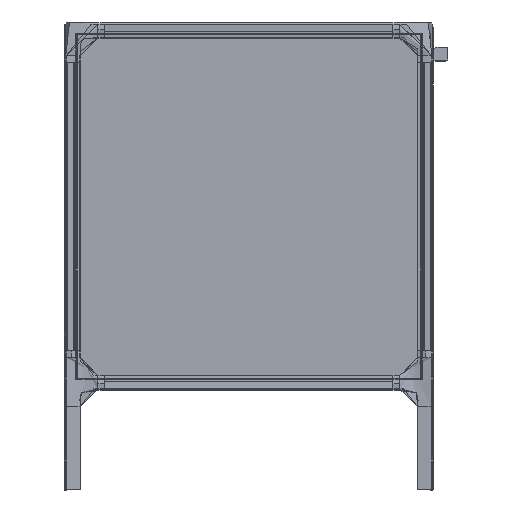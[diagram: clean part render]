
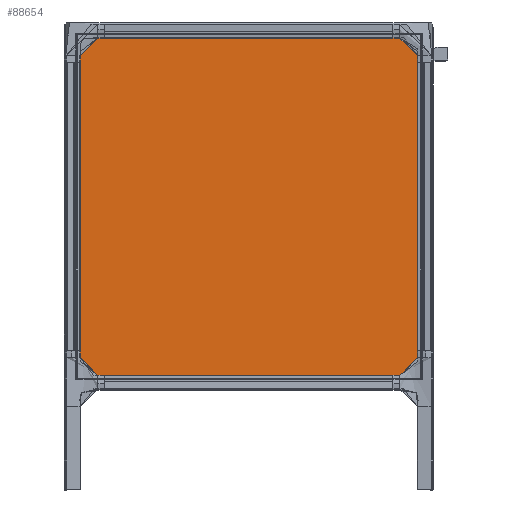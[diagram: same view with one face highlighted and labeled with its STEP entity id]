
A CAD part, left-side view. The second image highlights one B-rep face of the part: STEP entity #88654.
In plain terms, the highlighted planar face has unit normal (-1, 0, 0).
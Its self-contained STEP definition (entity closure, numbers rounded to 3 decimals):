
#88654=ADVANCED_FACE('',(#92294),#135886,.T.);
#92294=FACE_OUTER_BOUND('',#96008,.T.);
#96008=EDGE_LOOP('',(#110084,#110085,#110086,#110087));
#110084=ORIENTED_EDGE('',*,*,#121453,.F.);
#110085=ORIENTED_EDGE('',*,*,#121451,.F.);
#110086=ORIENTED_EDGE('',*,*,#121452,.F.);
#110087=ORIENTED_EDGE('',*,*,#121450,.F.);
#121450=EDGE_CURVE('',#133082,#133083,#127676,.T.);
#121451=EDGE_CURVE('',#133084,#133085,#127677,.T.);
#121452=EDGE_CURVE('',#133083,#133084,#127678,.T.);
#121453=EDGE_CURVE('',#133085,#133082,#127679,.T.);
#127676=B_SPLINE_CURVE_WITH_KNOTS('',1,(#297131,#297132),.UNSPECIFIED.,
 .F.,.F.,(2,2),(1.,494.),.UNSPECIFIED.);
#127677=B_SPLINE_CURVE_WITH_KNOTS('',1,(#297133,#297134),.UNSPECIFIED.,
 .F.,.F.,(2,2),(1.,494.),.UNSPECIFIED.);
#127678=B_SPLINE_CURVE_WITH_KNOTS('',1,(#297135,#297136),.UNSPECIFIED.,
 .F.,.F.,(2,2),(1.,494.),.UNSPECIFIED.);
#127679=B_SPLINE_CURVE_WITH_KNOTS('',1,(#297137,#297138),.UNSPECIFIED.,
 .F.,.F.,(2,2),(1.,494.),.UNSPECIFIED.);
#133082=VERTEX_POINT('',#297091);
#133083=VERTEX_POINT('',#297092);
#133084=VERTEX_POINT('',#297093);
#133085=VERTEX_POINT('',#297094);
#135886=PLANE('',#137118);
#137118=AXIS2_PLACEMENT_3D('',#297029,#140902,$);
#140902=DIRECTION('',(-1.,0.,0.));
#297029=CARTESIAN_POINT('',(-1234.419,-372.042,262.163));
#297091=CARTESIAN_POINT('',(-1234.419,-371.042,756.163));
#297092=CARTESIAN_POINT('',(-1234.419,-371.042,263.163));
#297093=CARTESIAN_POINT('',(-1234.419,121.958,263.163));
#297094=CARTESIAN_POINT('',(-1234.419,121.958,756.163));
#297131=CARTESIAN_POINT('',(-1234.419,-371.042,756.163));
#297132=CARTESIAN_POINT('',(-1234.419,-371.042,263.163));
#297133=CARTESIAN_POINT('',(-1234.419,121.958,263.163));
#297134=CARTESIAN_POINT('',(-1234.419,121.958,756.163));
#297135=CARTESIAN_POINT('',(-1234.419,-371.042,263.163));
#297136=CARTESIAN_POINT('',(-1234.419,121.958,263.163));
#297137=CARTESIAN_POINT('',(-1234.419,121.958,756.163));
#297138=CARTESIAN_POINT('',(-1234.419,-371.042,756.163));
